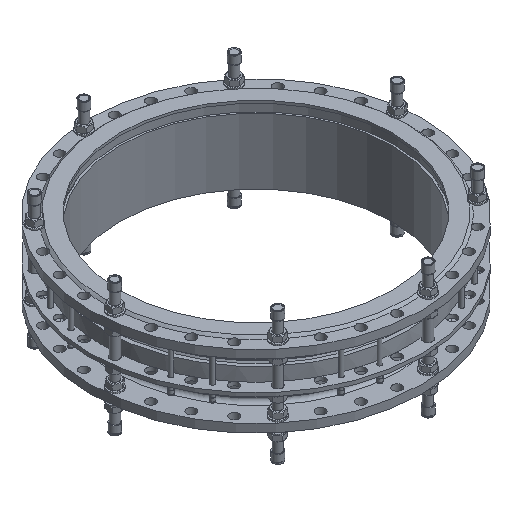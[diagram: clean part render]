
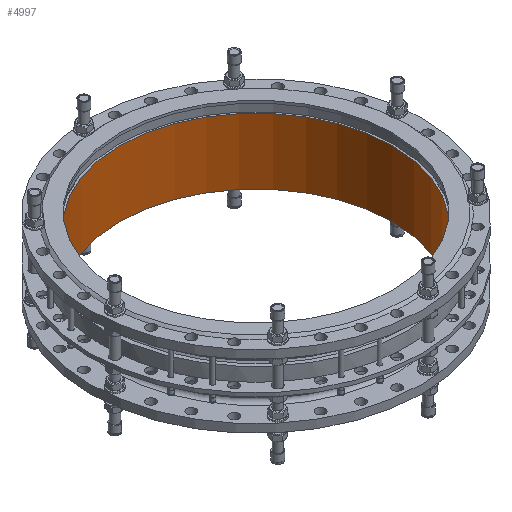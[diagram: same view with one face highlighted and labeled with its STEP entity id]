
A CAD part, isometric view. The second image highlights one B-rep face of the part: STEP entity #4997.
In plain terms, the highlighted cylindrical face has radius 550 mm (diameter 1100 mm), a full revolution.
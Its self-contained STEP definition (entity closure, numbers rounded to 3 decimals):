
#4997=ADVANCED_FACE('',(#5701,#5703),#5705,.F.);
#5701=FACE_OUTER_BOUND('',#5702,.T.);
#5702=EDGE_LOOP('',(#8480));
#5703=FACE_OUTER_BOUND('',#5704,.T.);
#5704=EDGE_LOOP('',(#8481));
#5705=CYLINDRICAL_SURFACE('',#5706,550.);
#5706=AXIS2_PLACEMENT_3D('',#5707,#5708,#5709);
#5707=CARTESIAN_POINT('',(0.,0.,0.));
#5708=DIRECTION('',(0.,0.,1.));
#5709=DIRECTION('',(-1.,0.,0.));
#8480=ORIENTED_EDGE('',*,*,#10155,.F.);
#8481=ORIENTED_EDGE('',*,*,#10156,.F.);
#10155=EDGE_CURVE('',#10908,#10908,#10909,.T.);
#10156=EDGE_CURVE('',#10910,#10910,#10911,.T.);
#10908=VERTEX_POINT('',#12265);
#10909=CIRCLE('',#12266,550.);
#10910=VERTEX_POINT('',#12270);
#10911=CIRCLE('',#12271,550.);
#12265=CARTESIAN_POINT('',(-550.,0.,265.));
#12266=AXIS2_PLACEMENT_3D('',#12267,#12268,#12269);
#12267=CARTESIAN_POINT('',(0.,0.,265.));
#12268=DIRECTION('',(0.,0.,-1.));
#12269=DIRECTION('',(-1.,0.,0.));
#12270=CARTESIAN_POINT('',(-550.,0.,0.));
#12271=AXIS2_PLACEMENT_3D('',#12272,#12273,#12274);
#12272=CARTESIAN_POINT('',(0.,0.,0.));
#12273=DIRECTION('',(0.,0.,1.));
#12274=DIRECTION('',(-1.,0.,0.));
